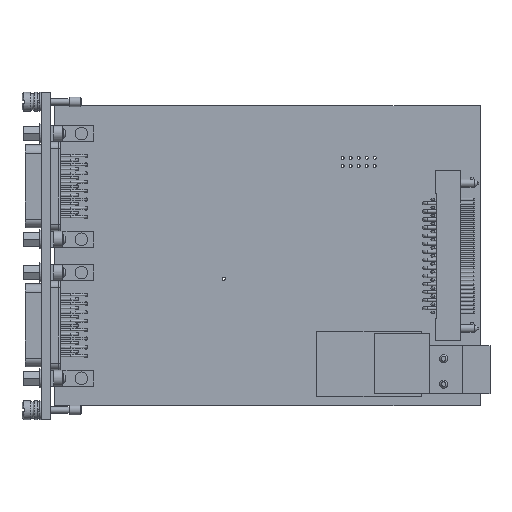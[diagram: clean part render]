
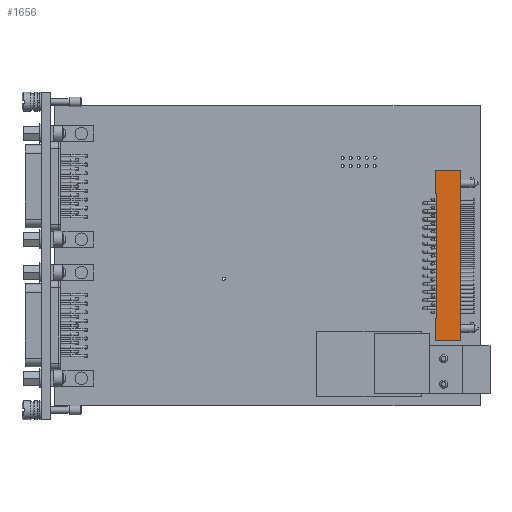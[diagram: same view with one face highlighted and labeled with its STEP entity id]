
A CAD part, top view. The second image highlights one B-rep face of the part: STEP entity #1656.
In plain terms, the highlighted planar face has unit normal (0, 0, 1).
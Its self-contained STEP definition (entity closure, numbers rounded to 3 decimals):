
#1656=ADVANCED_FACE('',(#17780),#17782,.F.);
#17780=FACE_BOUND('',#17781,.T.);
#17781=EDGE_LOOP('',(#30739,#30740,#30741,#30742,#30743,#30744,#30745,#30746));
#17782=PLANE('',#17783);
#17783=AXIS2_PLACEMENT_3D('',#17784,#17785,#17786);
#17784=CARTESIAN_POINT('',(94.02,25.5,18.363));
#17785=DIRECTION('',(0.,0.,-1.));
#17786=DIRECTION('',(-1.,0.,0.));
#30739=ORIENTED_EDGE('',*,*,#38535,.T.);
#30740=ORIENTED_EDGE('',*,*,#38578,.T.);
#30741=ORIENTED_EDGE('',*,*,#38576,.T.);
#30742=ORIENTED_EDGE('',*,*,#38574,.T.);
#30743=ORIENTED_EDGE('',*,*,#38572,.T.);
#30744=ORIENTED_EDGE('',*,*,#38541,.T.);
#30745=ORIENTED_EDGE('',*,*,#38539,.T.);
#30746=ORIENTED_EDGE('',*,*,#38537,.T.);
#38535=EDGE_CURVE('',#42734,#42732,#42735,.T.);
#38537=EDGE_CURVE('',#42737,#42734,#42738,.T.);
#38539=EDGE_CURVE('',#42740,#42737,#42741,.T.);
#38541=EDGE_CURVE('',#42743,#42740,#42744,.T.);
#38572=EDGE_CURVE('',#42804,#42743,#42805,.T.);
#38574=EDGE_CURVE('',#42807,#42804,#42808,.T.);
#38576=EDGE_CURVE('',#42810,#42807,#42811,.T.);
#38578=EDGE_CURVE('',#42732,#42810,#42813,.T.);
#42732=VERTEX_POINT('',#50422);
#42734=VERTEX_POINT('',#50426);
#42735=LINE('',#50427,#50428);
#42737=VERTEX_POINT('',#50433);
#42738=LINE('',#50434,#50435);
#42740=VERTEX_POINT('',#50440);
#42741=LINE('',#50441,#50442);
#42743=VERTEX_POINT('',#50447);
#42744=LINE('',#50448,#50449);
#42804=VERTEX_POINT('',#50599);
#42805=LINE('',#50600,#50601);
#42807=VERTEX_POINT('',#50606);
#42808=LINE('',#50607,#50608);
#42810=VERTEX_POINT('',#50613);
#42811=LINE('',#50614,#50615);
#42813=LINE('',#50620,#50621);
#50422=CARTESIAN_POINT('',(101.92,25.5,18.363));
#50426=CARTESIAN_POINT('',(94.02,25.5,18.363));
#50427=CARTESIAN_POINT('',(94.02,25.5,18.363));
#50428=VECTOR('',#50429,1.);
#50429=DIRECTION('',(1.,0.,0.));
#50433=CARTESIAN_POINT('',(94.02,32.5,18.363));
#50434=CARTESIAN_POINT('',(94.02,32.5,18.363));
#50435=VECTOR('',#50436,1.);
#50436=DIRECTION('',(0.,-1.,0.));
#50440=CARTESIAN_POINT('',(94.32,32.5,18.363));
#50441=CARTESIAN_POINT('',(94.32,32.5,18.363));
#50442=VECTOR('',#50443,1.);
#50443=DIRECTION('',(-1.,0.,0.));
#50447=CARTESIAN_POINT('',(94.32,72.,18.363));
#50448=CARTESIAN_POINT('',(94.32,72.,18.363));
#50449=VECTOR('',#50450,1.);
#50450=DIRECTION('',(0.,-1.,0.));
#50599=CARTESIAN_POINT('',(94.02,72.,18.363));
#50600=CARTESIAN_POINT('',(94.02,72.,18.363));
#50601=VECTOR('',#50602,1.);
#50602=DIRECTION('',(1.,0.,0.));
#50606=CARTESIAN_POINT('',(94.02,79.,18.363));
#50607=CARTESIAN_POINT('',(94.02,79.,18.363));
#50608=VECTOR('',#50609,1.);
#50609=DIRECTION('',(0.,-1.,0.));
#50613=CARTESIAN_POINT('',(101.92,79.,18.363));
#50614=CARTESIAN_POINT('',(101.92,79.,18.363));
#50615=VECTOR('',#50616,1.);
#50616=DIRECTION('',(-1.,0.,0.));
#50620=CARTESIAN_POINT('',(101.92,25.5,18.363));
#50621=VECTOR('',#50622,1.);
#50622=DIRECTION('',(0.,1.,0.));
